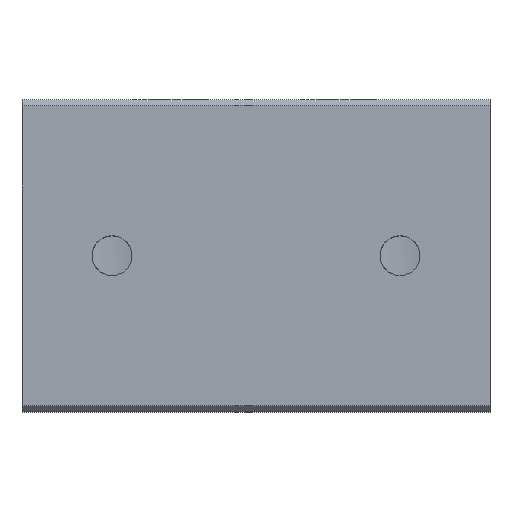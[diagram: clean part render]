
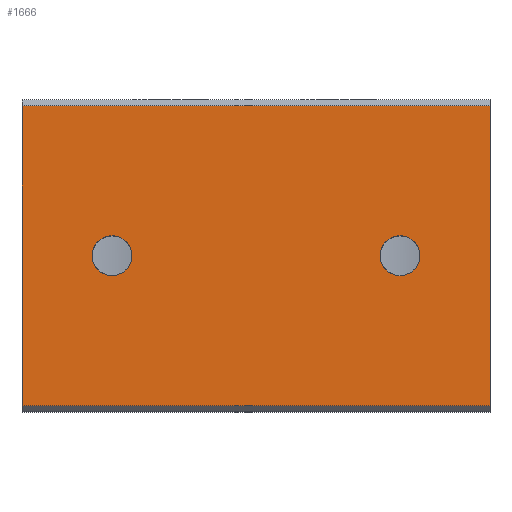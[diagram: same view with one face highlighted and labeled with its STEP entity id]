
A CAD part, top view. The second image highlights one B-rep face of the part: STEP entity #1666.
In plain terms, the highlighted planar face has unit normal (0, 0, 1).
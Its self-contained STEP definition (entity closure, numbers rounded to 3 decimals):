
#1514=CARTESIAN_POINT('',(78.0,-25.0,35.));
#1515=VERTEX_POINT('',#1514);
#1522=CARTESIAN_POINT('',(0.0,-25.0,35.));
#1523=VERTEX_POINT('',#1522);
#1524=CARTESIAN_POINT('',(78.0,-25.0,35.));
#1525=DIRECTION('',(-1.0,0.0,0.0));
#1526=VECTOR('',#1525,78.0);
#1527=LINE('',#1524,#1526);
#1528=EDGE_CURVE('',#1515,#1523,#1527,.T.);
#1553=CARTESIAN_POINT('',(0.0,25.0,35.));
#1554=VERTEX_POINT('',#1553);
#1555=CARTESIAN_POINT('',(0.0,-25.0,35.));
#1556=DIRECTION('',(0.0,1.0,0.0));
#1557=VECTOR('',#1556,50.0);
#1558=LINE('',#1555,#1557);
#1559=EDGE_CURVE('',#1523,#1554,#1558,.T.);
#1621=CARTESIAN_POINT('',(0.0,-26.,35.));
#1622=DIRECTION('',(0.0,0.0,1.0));
#1623=DIRECTION('',(1.0,0.0,0.0));
#1624=AXIS2_PLACEMENT_3D('',#1621,#1622,#1623);
#1625=PLANE('',#1624);
#1626=ORIENTED_EDGE('',*,*,#1528,.F.);
#1627=CARTESIAN_POINT('',(78.0,25.0,35.));
#1628=VERTEX_POINT('',#1627);
#1629=CARTESIAN_POINT('',(78.0,-25.0,35.));
#1630=DIRECTION('',(0.0,1.0,0.0));
#1631=VECTOR('',#1630,50.0);
#1632=LINE('',#1629,#1631);
#1633=EDGE_CURVE('',#1515,#1628,#1632,.T.);
#1634=ORIENTED_EDGE('',*,*,#1633,.T.);
#1635=CARTESIAN_POINT('',(0.0,25.0,35.));
#1636=DIRECTION('',(1.0,0.0,0.0));
#1637=VECTOR('',#1636,78.0);
#1638=LINE('',#1635,#1637);
#1639=EDGE_CURVE('',#1554,#1628,#1638,.T.);
#1640=ORIENTED_EDGE('',*,*,#1639,.F.);
#1641=ORIENTED_EDGE('',*,*,#1559,.F.);
#1642=EDGE_LOOP('',(#1626,#1634,#1640,#1641));
#1643=FACE_OUTER_BOUND('',#1642,.T.);
#1644=CARTESIAN_POINT('',(18.323,0.0,35.0));
#1645=VERTEX_POINT('',#1644);
#1646=CARTESIAN_POINT('',(15.,0.0,35.0));
#1647=DIRECTION('',(0.0,0.0,-1.0));
#1648=DIRECTION('',(1.0,0.0,0.0));
#1649=AXIS2_PLACEMENT_3D('',#1646,#1647,#1648);
#1650=CIRCLE('',#1649,3.324);
#1651=EDGE_CURVE('',#1645,#1645,#1650,.T.);
#1652=ORIENTED_EDGE('',*,*,#1651,.T.);
#1653=EDGE_LOOP('',(#1652));
#1654=FACE_BOUND('',#1653,.T.);
#1655=CARTESIAN_POINT('',(66.324,0.,35.0));
#1656=VERTEX_POINT('',#1655);
#1657=CARTESIAN_POINT('',(63.,0.,35.0));
#1658=DIRECTION('',(0.0,0.0,-1.0));
#1659=DIRECTION('',(1.0,0.0,0.0));
#1660=AXIS2_PLACEMENT_3D('',#1657,#1658,#1659);
#1661=CIRCLE('',#1660,3.324);
#1662=EDGE_CURVE('',#1656,#1656,#1661,.T.);
#1663=ORIENTED_EDGE('',*,*,#1662,.T.);
#1664=EDGE_LOOP('',(#1663));
#1665=FACE_BOUND('',#1664,.T.);
#1666=ADVANCED_FACE('',(#1643,#1654,#1665),#1625,.T.);
